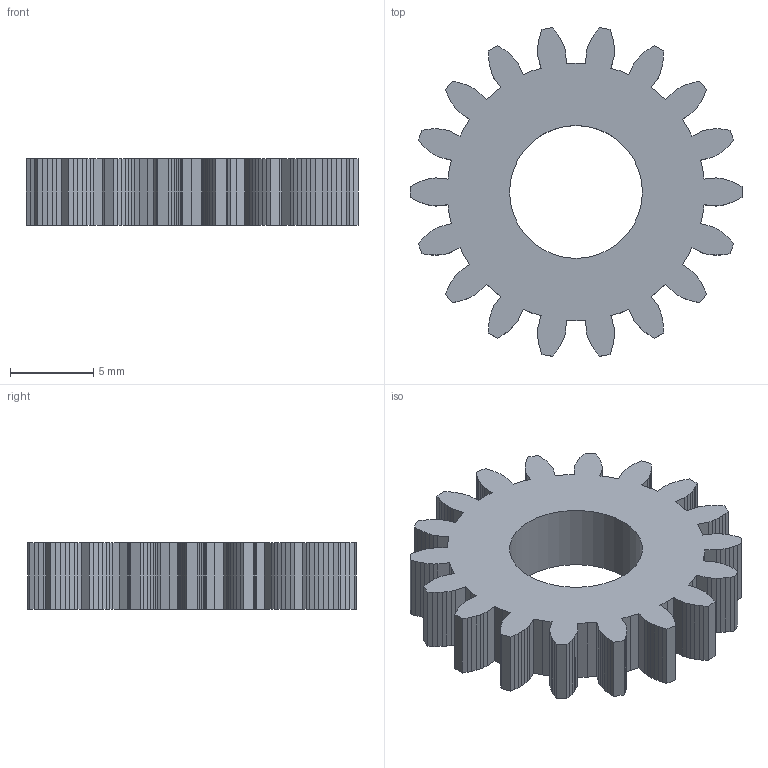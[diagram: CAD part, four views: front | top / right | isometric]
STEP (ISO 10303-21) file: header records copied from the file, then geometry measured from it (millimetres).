
FILE_DESCRIPTION(('Open CASCADE Model'),'2;1');
FILE_NAME('Open CASCADE Shape Model','2026-11-23T18:10:07',('Author'),( 'Open CASCADE'),'Open CASCADE STEP processor 8.0','build123d', 'Unknown');
FILE_SCHEMA(('AUTOMOTIVE_DESIGN { 1 0 10303 214 1 1 1 1 }'));
Length unit declared in the file: millimetre
Products named in the file (1): SOLID
Bounding box: 19.99 x 19.8 x 4 mm (x, y, z)
Volume: 781.1 mm3; surface area: 964.3 mm2
Topology: 1 solids, 1 shells, 309 faces, 921 edges, 614 vertices
Faces by surface type: plane 308, cylinder 1
Full cylindrical faces by diameter (mm): 8 x1
Entity records: 22144 total; most frequent: CARTESIAN_POINT 3687, DIRECTION 3385, LINE 2759, VECTOR 2759, ORIENTED_EDGE 1842, PCURVE 1842, DEFINITIONAL_REPRESENTATION 1842, EDGE_CURVE 921
